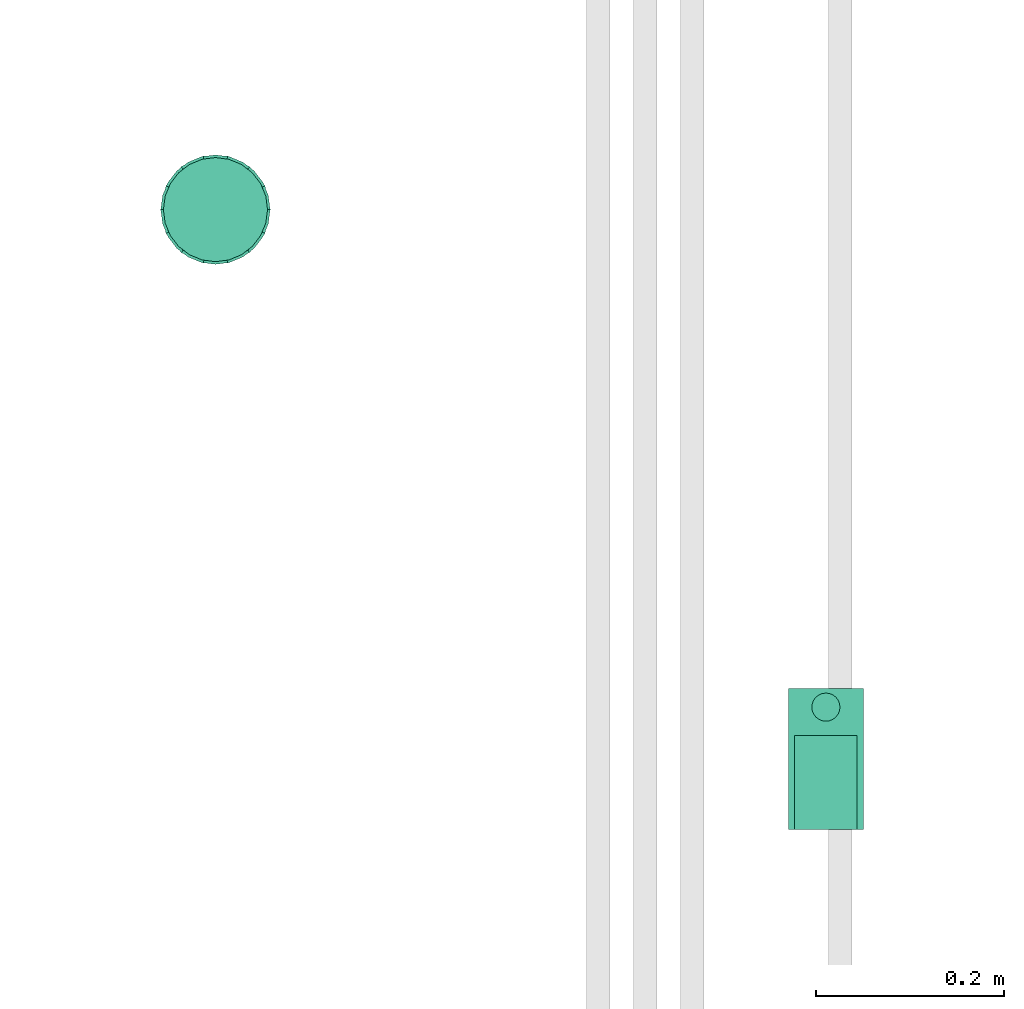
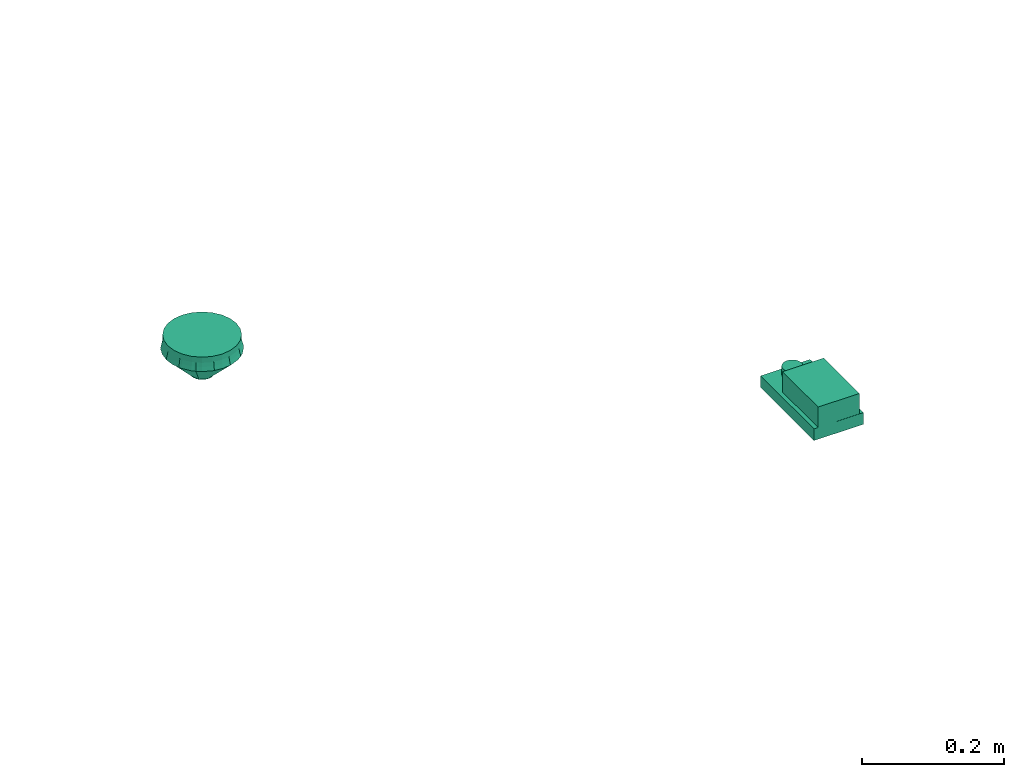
# One storey, part 13 of 51: 2 distribution control elements.
"""IFC2X3 building model written with IfcOpenShell, lengths in millimetres."""

from ifc_helpers import new_model, entity, si_unit, converted_unit, derived_unit, direction, frame, origin_with_axes, place, context, subcontext, project, spatial, open_shell, surface_model, source, transform, mapped, type_object, element, save


model = new_model("IFC2X3")

# Units and contexts
model_context = context("Model", 3, precision=0.01, world=frame((0.0, 4.29681676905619e-09, 0.0)), true_north=direction((4.01073788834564e-13, 1.0)))
plan_context = context("Plan", 3, precision=0.01, world=frame((0.0, 4.29681676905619e-09, 0.0)), true_north=direction((4.01073788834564e-13, 1.0)))
body_context = subcontext(model_context, "Body", "Model", "MODEL_VIEW")
ifc_project = project(units=[converted_unit("PLANEANGLEUNIT", "DEGREE", entity("IfcPositiveLengthMeasure", 0.0174532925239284), si_unit("PLANEANGLEUNIT", "RADIAN"), dimensions=[0, 0, 0, 0, 0, 0, 0]), si_unit("AREAUNIT", "SQUARE_METRE"), si_unit("LENGTHUNIT", "METRE", prefix="MILLI"), si_unit("MASSUNIT", "GRAM", prefix="KILO"), si_unit("POWERUNIT", "WATT"), si_unit("PRESSUREUNIT", "PASCAL"), si_unit("FORCEUNIT", "NEWTON", prefix="KILO"), si_unit("ELECTRICVOLTAGEUNIT", "VOLT"), si_unit("ELECTRICCURRENTUNIT", "AMPERE"), si_unit("THERMODYNAMICTEMPERATUREUNIT", "DEGREE_CELSIUS"), si_unit("TIMEUNIT", "SECOND"), si_unit("VOLUMEUNIT", "CUBIC_METRE"), derived_unit("LINEARVELOCITYUNIT", [(si_unit("LENGTHUNIT", "METRE"), 1), (si_unit("TIMEUNIT", "SECOND"), -1)]), derived_unit("VOLUMETRICFLOWRATEUNIT", [(si_unit("VOLUMEUNIT", "CUBIC_METRE"), 1), (si_unit("TIMEUNIT", "SECOND"), -1)]), derived_unit("THERMALTRANSMITTANCEUNIT", [(si_unit("POWERUNIT", "WATT"), 1), (si_unit("THERMODYNAMICTEMPERATUREUNIT", "KELVIN"), -1), (si_unit("AREAUNIT", "SQUARE_METRE"), -1)]), derived_unit("SOUNDPRESSUREUNIT", [(si_unit("PRESSUREUNIT", "PASCAL"), 1)])], contexts=[model_context, plan_context])

# Site, building, storey
site_placement = place(None, frame((0.0, -4.29681676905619e-09, 0.0), z_axis=(0.0, 0.0, 1.0), x_axis=(1.0, 0.0, 0.0)))
site = spatial("IfcSite", under=ifc_project, at=site_placement, Name="ENGM", CompositionType="ELEMENT")
building_placement = place(site_placement, frame((0.0, 4.29681676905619e-09, 0.0), z_axis=(0.0, 0.0, 1.0), x_axis=(1.0, 0.0, 0.0)))
building = spatial("IfcBuilding", under=site, at=building_placement, Name="TI", CompositionType="ELEMENT")
storey_placement = place(building_placement, frame((0.0, 0.0, 210900.0), z_axis=(0.0, 0.0, 1.0), x_axis=(1.0, 0.0, 0.0)))
storey = spatial("IfcBuildingStorey", under=building, at=storey_placement, Name="Nivå F", CompositionType="ELEMENT", Elevation=210900.0)

# Distribution control elements
alarm_type_1 = type_object("IfcAlarmType", Name="Standard", PredefinedType="NOTDEFINED")
shared_shape_1 = source(origin_with_axes(), body_context, "Body", "SurfaceModel", [
    surface_model("IfcShellBasedSurfaceModel", [(8.775, -15.19875, -64.9), (-12.40972, -12.40972, -64.9), (4.54227, -16.952, -64.9), (15.19875, -8.775, -64.9), (12.40972, -12.40972, -64.9), (16.952, -4.54227, -64.9), (-4.54227, 16.952, -64.9), (-16.952, -4.54227, -64.9), (0.0, -17.55, -64.9), (-8.775, -15.19875, -64.9), (-4.54227, -16.952, -64.9), (-15.19875, -8.775, -64.9), (17.55, 0.0, -64.9), (15.19875, 8.775, -64.9), (16.952, 4.54227, -64.9), (0.0, 17.55, -64.9), (12.40972, 12.40972, -64.9), (4.54227, 16.952, -64.9), (8.775, 15.19875, -64.9), (-17.55, 0.0, -64.9), (-15.19875, 8.775, -64.9), (-16.952, 4.54227, -64.9), (-12.40972, 12.40972, -64.9), (-8.775, 15.19875, -64.9), (16.952, 4.54227, -65.1), (0.0, 17.55, -65.1), (4.54227, 16.952, -65.1), (12.40972, 12.40972, -65.1), (8.775, 15.19875, -65.1), (15.19875, 8.775, -65.1), (-12.40972, 12.40972, -65.1), (-4.54227, 16.952, -65.1), (-8.775, 15.19875, -65.1), (-15.19875, 8.775, -65.1), (-17.55, 0.0, -65.1), (-16.952, 4.54227, -65.1), (-16.952, -4.54227, -65.1), (16.952, -4.54227, -65.1), (8.775, -15.19875, -65.1), (15.19875, -8.775, -65.1), (12.40972, -12.40972, -65.1), (-12.40972, -12.40972, -65.1), (4.54227, -16.952, -65.1), (-15.19875, -8.775, -65.1), (-8.775, -15.19875, -65.1), (0.0, -17.55, -65.1), (-4.54227, -16.952, -65.1), (17.55, 0.0, -65.1), (-36.47415, 45.73714, -22.75), (-52.70668, 25.3822, -22.75), (-58.5, 0.0, -22.75), (52.70668, 25.3822, -22.75), (13.01748, 57.03328, -22.75), (-13.01748, 57.03328, -22.75), (36.47415, 45.73714, -22.75), (-52.70668, -25.3822, -22.75), (-36.47415, -45.73714, -22.75), (-13.01748, -57.03328, -22.75), (36.47415, -45.73714, -22.75), (52.70668, -25.3822, -22.75), (58.5, 0.0, -22.75), (13.01748, -57.03328, -22.75), (0.0, 17.55, -65.0), (12.40972, 12.40972, -65.0), (-12.40972, 12.40972, -65.0), (-12.40972, -12.40972, -65.0), (-17.55, 0.0, -65.0), (17.55, 0.0, -65.0), (12.40972, -12.40972, -65.0), (0.0, -17.55, -65.0), (-44.59042, -35.55967, -22.75), (-13.69479, -9.30729, -65.0), (55.60334, -12.6911, -22.75), (14.97986, -6.20486, -65.0), (16.26493, -3.10243, -65.0), (-9.30729, -13.69479, -65.0), (-6.20486, -14.97986, -65.0), (-24.74581, -51.38521, -22.75), (-14.97986, -6.20486, -65.0), (24.74581, -51.38521, -22.75), (9.30729, -13.69479, -65.0), (-55.60334, -12.6911, -22.75), (-16.26493, -3.10243, -65.0), (-3.10243, -16.26493, -65.0), (3.10243, -16.26493, -65.0), (0.0, -57.03328, -22.75), (44.59042, -35.55967, -22.75), (13.69479, -9.30729, -65.0), (6.20486, -14.97986, -65.0), (44.59042, 35.55967, -22.75), (13.69479, 9.30729, -65.0), (-55.60334, 12.6911, -22.75), (-14.97986, 6.20486, -65.0), (-16.26493, 3.10243, -65.0), (9.30729, 13.69479, -65.0), (6.20486, 14.97986, -65.0), (24.74581, 51.38521, -22.75), (14.97986, 6.20486, -65.0), (-24.74581, 51.38521, -22.75), (-9.30729, 13.69479, -65.0), (55.60334, 12.6911, -22.75), (16.26493, 3.10243, -65.0), (3.10243, 16.26493, -65.0), (-3.10243, 16.26493, -65.0), (0.0, 57.03328, -22.75), (-44.59042, 35.55967, -22.75), (-13.69479, 9.30729, -65.0), (-6.20486, 14.97986, -65.0), (-28.275, 48.97374, -16.25), (-32.41056, 45.80041, -16.25), (-13.88456, 54.72206, -16.25), (-49.79102, 26.30191, -16.25), (-39.98689, 39.98689, -16.25), (-48.97374, 28.275, -16.25), (-37.1285, 42.18021, -16.25), (-35.38305, 44.36894, -16.25), (-56.2774, 2.07059, -16.25), (-56.75, 0.0, -16.25), (-56.55, 0.0, -16.25), (-51.91976, 21.16268, -16.25), (-51.12998, 24.6229, -16.25), (-54.62311, 14.63622, -16.25), (28.275, 48.97374, -16.25), (14.63622, 54.62311, -16.25), (13.88456, 54.72206, -16.25), (54.62311, -14.63622, -16.25), (56.2774, -2.07059, -16.25), (51.91976, -21.16268, -16.25), (12.62806, 55.32716, -16.25), (9.2884, 55.32716, -16.25), (49.79102, 26.30191, -16.25), (39.98689, 39.98689, -16.25), (37.1285, 42.18021, -16.25), (56.55, 0.0, -16.25), (56.75, 0.0, -16.25), (56.2774, 2.07059, -16.25), (39.98689, -39.98689, -16.25), (49.79102, -26.30191, -16.25), (37.1285, -42.18021, -16.25), (35.38305, 44.36894, -16.25), (32.41056, 45.80041, -16.25), (35.38305, -44.36894, -16.25), (32.41056, -45.80041, -16.25), (-56.2774, -2.07059, -16.25), (-49.79102, -26.30191, -16.25), (-51.91976, -21.16268, -16.25), (-51.12998, -24.6229, -16.25), (-37.1285, -42.18021, -16.25), (-35.38305, -44.36894, -16.25), (-32.41056, -45.80041, -16.25), (-13.88456, -54.72206, -16.25), (-28.275, -48.97374, -16.25), (-14.63622, -54.62311, -16.25), (51.12998, -24.6229, -16.25), (-39.98689, -39.98689, -16.25), (-48.97374, -28.275, -16.25), (-9.2884, 55.32716, -16.25), (-12.62806, 55.32716, -16.25), (28.275, -48.97374, -16.25), (13.88456, -54.72206, -16.25), (14.63622, -54.62311, -16.25), (48.97374, -28.275, -16.25), (12.62806, -55.32716, -16.25), (9.2884, -55.32716, -16.25), (0.0, -56.55, -16.25), (-9.2884, -55.32716, -16.25), (-12.62806, -55.32716, -16.25), (-54.62311, -14.63622, -16.25), (-14.63622, 54.62311, -16.25), (0.0, 56.55, -16.25), (48.97374, 28.275, -16.25), (51.91976, 21.16268, -16.25), (51.12998, 24.6229, -16.25), (54.62311, 14.63622, -16.25), (29.15, 50.48928, -22.75), (33.43697, 47.19977, -22.75), (14.29509, 56.41801, -22.75), (51.34019, 27.09572, -22.75), (41.22432, 41.22432, -22.75), (50.48928, 29.15, -22.75), (58.0274, 2.07059, -22.75), (58.3, 0.0, -22.75), (38.25759, 43.50078, -22.75), (-33.43697, 47.19977, -22.75), (-38.25759, 43.50078, -22.75), (56.31348, 15.08915, -22.75), (53.51269, 21.85086, -22.75), (-14.29509, -56.41801, -22.75), (-9.62167, -57.03328, -22.75), (-29.15, 50.48928, -22.75), (-15.08915, 56.31348, -22.75), (-14.29509, 56.41801, -22.75), (-56.31348, -15.08915, -22.75), (-58.0274, -2.07059, -22.75), (-53.51269, -21.85086, -22.75), (-9.62167, 57.03328, -22.75), (-51.34019, 27.09572, -22.75), (-41.22432, 41.22432, -22.75), (-41.22432, -41.22432, -22.75), (-51.34019, -27.09572, -22.75), (-38.25759, -43.50078, -22.75), (-58.3, 0.0, -22.75), (-58.0274, 2.07059, -22.75), (58.0274, -2.07059, -22.75), (-33.43697, -47.19977, -22.75), (51.34019, -27.09572, -22.75), (53.51269, -21.85086, -22.75), (41.22432, -41.22432, -22.75), (38.25759, -43.50078, -22.75), (29.15, -50.48928, -22.75), (15.08915, -56.31348, -22.75), (14.29509, -56.41801, -22.75), (9.62167, -57.03328, -22.75), (33.43697, -47.19977, -22.75), (50.48928, -29.15, -22.75), (9.62167, 57.03328, -22.75), (-29.15, -50.48928, -22.75), (-15.08915, -56.31348, -22.75), (-50.48928, -29.15, -22.75), (0.0, -58.3, -22.75), (56.31348, -15.08915, -22.75), (15.08915, 56.31348, -22.75), (0.0, 58.3, -22.75), (-50.48928, 29.15, -22.75), (-53.51269, 21.85086, -22.75), (-56.31348, 15.08915, -22.75), (53.15004, -15.77246, -16.25), (43.25652, -34.49592, -16.25), (-54.78902, -16.25884, -22.75), (-53.93999, -12.31145, -16.25), (24.00555, -49.84805, -16.25), (0.0, -55.32716, -16.25), (-24.00555, -49.84805, -16.25), (-43.25652, -34.49592, -16.25), (-53.15004, 15.77246, -16.25), (-43.25652, 34.49592, -16.25), (54.78902, 16.25884, -22.75), (53.93999, 12.31145, -16.25), (-24.00555, 49.84805, -16.25), (0.0, 55.32716, -16.25), (24.00555, 49.84805, -16.25), (43.25652, 34.49592, -16.25), (-27.65, 47.8912, -9.75), (-31.6774, 44.80087, -9.75), (-13.59132, 53.51067, -9.75), (-48.68446, 25.73491, -9.75), (-39.103, 39.103, -9.75), (-47.8912, 27.65, -9.75), (-34.60368, 43.39165, -9.75), (-36.322, 41.23694, -9.75), (-55.0274, 2.07059, -9.75), (-55.5, 0.0, -9.75), (-55.3, 0.0, -9.75), (-50.00377, 24.08055, -9.75), (-50.78195, 20.67112, -9.75), (-53.4157, 14.31269, -9.75), (27.65, 47.8912, -9.75), (14.31269, 53.4157, -9.75), (13.59132, 53.51067, -9.75), (53.4157, -14.31269, -9.75), (55.0274, -2.07059, -9.75), (50.78195, -20.67112, -9.75), (9.05035, 54.1085, -9.75), (12.34991, 54.1085, -9.75), (48.68446, 25.73491, -9.75), (39.103, 39.103, -9.75), (36.322, 41.23694, -9.75), (39.103, -39.103, -9.75), (48.68446, -25.73491, -9.75), (36.322, -41.23694, -9.75), (34.60368, 43.39165, -9.75), (31.6774, 44.80087, -9.75), (55.0274, 2.07059, -9.75), (55.3, 0.0, -9.75), (55.5, 0.0, -9.75), (34.60368, -43.39165, -9.75), (31.6774, -44.80087, -9.75), (-55.0274, -2.07059, -9.75), (-48.68446, -25.73491, -9.75), (-50.78195, -20.67112, -9.75), (-50.00377, -24.08055, -9.75), (-12.34991, -54.1085, -9.75), (-9.05035, -54.1085, -9.75), (-13.59132, -53.51067, -9.75), (-27.65, -47.8912, -9.75), (-14.31269, -53.4157, -9.75), (50.00377, -24.08055, -9.75), (-31.6774, -44.80087, -9.75), (-39.103, -39.103, -9.75), (-36.322, -41.23694, -9.75), (-47.8912, -27.65, -9.75), (-9.05035, 54.1085, -9.75), (-12.34991, 54.1085, -9.75), (27.65, -47.8912, -9.75), (13.59132, -53.51067, -9.75), (14.31269, -53.4157, -9.75), (47.8912, -27.65, -9.75), (0.0, -55.3, -9.75), (9.05035, -54.1085, -9.75), (12.34991, -54.1085, -9.75), (-34.60368, -43.39165, -9.75), (-53.4157, -14.31269, -9.75), (-14.31269, 53.4157, -9.75), (0.0, 55.3, -9.75), (47.8912, 27.65, -9.75), (50.78195, 20.67112, -9.75), (50.00377, 24.08055, -9.75), (53.4157, 14.31269, -9.75), (51.93259, -15.62982, -9.75), (42.30373, -33.7361, -9.75), (-53.10225, -15.98184, -16.25), (-52.75189, -12.04027, -9.75), (23.4768, -48.75007, -9.75), (53.93999, -12.31145, -16.25), (0.0, -54.1085, -9.75), (-23.4768, -48.75007, -9.75), (-42.30373, -33.7361, -9.75), (-51.93259, 15.62982, -9.75), (-42.30373, 33.7361, -9.75), (53.10225, 15.98184, -16.25), (52.75189, 12.04027, -9.75), (-23.4768, 48.75007, -9.75), (-53.93999, 12.31145, -16.25), (0.0, 54.1085, -9.75), (23.4768, 48.75007, -9.75), (42.30373, 33.7361, -9.75), (14.36446, -53.60888, 0.0), (27.75, -48.06441, 0.0), (39.24443, -39.24443, 0.0), (0.0, -55.5, 0.0), (48.06441, -27.75, 0.0), (53.60888, -14.36446, 0.0), (55.5, 0.0, 0.0), (-27.75, -48.06441, 0.0), (-14.36446, -53.60888, 0.0), (-48.06441, -27.75, 0.0), (-39.24443, -39.24443, 0.0), (-53.60888, -14.36446, 0.0), (48.06441, 27.75, 0.0), (14.36446, 53.60888, 0.0), (39.24443, 39.24443, 0.0), (0.0, 55.5, 0.0), (27.75, 48.06441, 0.0), (-27.75, 48.06441, 0.0), (-55.5, 0.0, 0.0), (-48.06441, 27.75, 0.0), (-53.60888, 14.36446, 0.0), (-39.24443, 39.24443, 0.0), (-14.36446, 53.60888, 0.0), (53.60888, 14.36446, 0.0), (14.36446, 53.60888, -9.75), (-27.75, 48.06441, -9.75), (0.0, 55.5, -9.75), (39.24443, 39.24443, -9.75), (27.75, 48.06441, -9.75), (48.06441, 27.75, -9.75), (53.60888, 14.36446, -9.75), (-48.06441, 27.75, -9.75), (-39.24443, 39.24443, -9.75), (-14.36446, 53.60888, -9.75), (-53.60888, 14.36446, -9.75), (53.60888, -14.36446, -9.75), (48.06441, -27.75, -9.75), (-53.60888, -14.36446, -9.75), (39.24443, -39.24443, -9.75), (27.75, -48.06441, -9.75), (14.36446, -53.60888, -9.75), (-27.75, -48.06441, -9.75), (-48.06441, -27.75, -9.75), (-39.24443, -39.24443, -9.75), (0.0, -55.5, -9.75), (-14.36446, -53.60888, -9.75)], [open_shell([[[0, 1, 2]], [[3, 0, 4]], [[0, 5, 1]], [[5, 0, 3]], [[5, 6, 7]], [[8, 9, 10]], [[9, 8, 1]], [[1, 7, 11]], [[1, 8, 2]], [[5, 7, 1]], [[5, 12, 6]], [[13, 6, 14]], [[15, 13, 16]], [[17, 15, 16]], [[17, 16, 18]], [[6, 13, 15]], [[19, 20, 21]], [[19, 7, 20]], [[22, 6, 23]], [[7, 22, 20]], [[6, 22, 7]], [[12, 14, 6]], [[24, 25, 26]], [[27, 26, 28]], [[29, 24, 26]], [[29, 26, 27]], [[25, 24, 30]], [[31, 30, 32]], [[31, 25, 30]], [[33, 34, 35]], [[36, 34, 33]], [[33, 30, 36]], [[30, 24, 37]], [[36, 30, 37]], [[38, 37, 39]], [[36, 37, 38]], [[38, 39, 40]], [[41, 38, 42]], [[36, 41, 43]], [[36, 38, 41]], [[44, 45, 46]], [[45, 44, 41]], [[42, 45, 41]], [[37, 24, 47]], [[36, 7, 34]], [[43, 11, 36]], [[9, 41, 44]], [[43, 41, 1]], [[10, 44, 46]], [[36, 11, 7]], [[7, 19, 34]], [[10, 9, 44]], [[1, 41, 9]], [[1, 11, 43]], [[8, 10, 46]], [[46, 45, 8]], [[42, 2, 45]], [[38, 0, 42]], [[3, 40, 39]], [[38, 40, 4]], [[5, 39, 37]], [[38, 4, 0]], [[0, 2, 42]], [[12, 5, 37]], [[3, 39, 5]], [[3, 4, 40]], [[47, 12, 37]], [[45, 2, 8]], [[24, 14, 47]], [[29, 13, 24]], [[18, 27, 28]], [[29, 27, 16]], [[17, 28, 26]], [[24, 13, 14]], [[14, 12, 47]], [[17, 18, 28]], [[16, 27, 18]], [[16, 13, 29]], [[15, 17, 26]], [[26, 25, 15]], [[31, 6, 25]], [[32, 23, 31]], [[20, 30, 33]], [[32, 30, 22]], [[21, 33, 35]], [[32, 22, 23]], [[23, 6, 31]], [[19, 21, 35]], [[20, 33, 21]], [[20, 22, 30]], [[34, 19, 35]], [[25, 6, 15]], [[48, 49, 50]], [[48, 50, 51]], [[52, 53, 51]], [[51, 54, 52]], [[53, 48, 51]], [[50, 55, 51]], [[55, 56, 57]], [[57, 58, 51]], [[59, 60, 58]], [[60, 51, 58]], [[57, 61, 58]], [[51, 55, 57]], [[62, 63, 64]], [[65, 66, 64]], [[64, 63, 65]], [[67, 68, 69]], [[69, 65, 67]], [[67, 65, 63]], [[65, 70, 71]], [[72, 73, 74]], [[75, 76, 77]], [[55, 78, 71]], [[79, 80, 58]], [[78, 55, 81]], [[81, 82, 78]], [[57, 76, 83]], [[84, 85, 69]], [[59, 73, 72]], [[55, 71, 70]], [[69, 85, 83]], [[60, 74, 67]], [[68, 86, 58]], [[86, 68, 87]], [[56, 65, 75]], [[87, 59, 86]], [[60, 72, 74]], [[65, 56, 70]], [[66, 82, 50]], [[50, 82, 81]], [[56, 75, 77]], [[80, 79, 88]], [[61, 84, 88]], [[80, 68, 58]], [[87, 73, 59]], [[76, 57, 77]], [[85, 84, 61]], [[57, 83, 85]], [[79, 61, 88]], [[63, 89, 90]], [[91, 92, 93]], [[94, 95, 96]], [[51, 97, 90]], [[98, 99, 48]], [[97, 51, 100]], [[100, 101, 97]], [[52, 95, 102]], [[103, 104, 62]], [[49, 92, 91]], [[51, 90, 89]], [[62, 104, 102]], [[50, 93, 66]], [[64, 105, 48]], [[105, 64, 106]], [[54, 63, 94]], [[106, 49, 105]], [[50, 91, 93]], [[63, 54, 89]], [[67, 101, 60]], [[60, 101, 100]], [[54, 94, 96]], [[99, 98, 107]], [[53, 103, 107]], [[99, 64, 48]], [[106, 92, 49]], [[95, 52, 96]], [[104, 103, 53]], [[52, 102, 104]], [[98, 53, 107]], [[108, 109, 110]], [[111, 112, 113]], [[114, 109, 115]], [[116, 117, 118]], [[119, 111, 120]], [[121, 116, 119]], [[122, 123, 124]], [[125, 126, 127]], [[128, 129, 124]], [[130, 131, 132]], [[133, 134, 135]], [[136, 137, 138]], [[132, 139, 140]], [[141, 138, 142]], [[112, 111, 114]], [[117, 143, 118]], [[144, 145, 146]], [[147, 148, 149]], [[150, 151, 152]], [[127, 137, 153]], [[151, 150, 149]], [[154, 147, 144]], [[154, 144, 155]], [[110, 156, 157]], [[158, 159, 160]], [[133, 126, 134]], [[161, 137, 136]], [[162, 159, 163]], [[164, 163, 165]], [[158, 142, 159]], [[150, 166, 165]], [[167, 145, 143]], [[108, 110, 168]], [[169, 156, 129]], [[122, 124, 140]], [[131, 130, 170]], [[130, 171, 172]], [[173, 171, 135]], [[174, 175, 176]], [[177, 178, 179]], [[180, 60, 181]], [[54, 182, 175]], [[48, 183, 184]], [[185, 180, 186]], [[57, 187, 188]], [[189, 190, 191]], [[192, 193, 194]], [[195, 191, 53]], [[196, 197, 184]], [[198, 199, 200]], [[51, 186, 177]], [[201, 50, 202]], [[203, 181, 60]], [[178, 177, 182]], [[204, 56, 200]], [[205, 206, 59]], [[205, 207, 208]], [[209, 210, 211]], [[212, 211, 61]], [[209, 211, 213]], [[194, 199, 55]], [[207, 205, 214]], [[215, 52, 176]], [[216, 187, 217]], [[201, 193, 50]], [[198, 218, 199]], [[208, 58, 213]], [[219, 188, 212]], [[204, 187, 216]], [[220, 206, 203]], [[174, 176, 221]], [[222, 215, 195]], [[189, 191, 183]], [[197, 196, 223]], [[196, 224, 49]], [[225, 224, 202]], [[153, 59, 226]], [[141, 86, 227]], [[228, 146, 229]], [[162, 79, 230]], [[134, 226, 72]], [[72, 60, 134]], [[226, 59, 72]], [[230, 58, 141]], [[59, 153, 227]], [[141, 58, 86]], [[85, 231, 166]], [[166, 57, 85]], [[148, 77, 232]], [[56, 233, 70]], [[146, 70, 233]], [[57, 232, 77]], [[146, 55, 70]], [[50, 229, 117]], [[162, 61, 79]], [[232, 57, 166]], [[58, 230, 79]], [[146, 228, 55]], [[56, 148, 233]], [[59, 227, 86]], [[148, 56, 77]], [[162, 231, 61]], [[50, 228, 229]], [[61, 231, 85]], [[120, 49, 234]], [[115, 105, 235]], [[236, 172, 237]], [[157, 98, 238]], [[117, 234, 91]], [[91, 50, 117]], [[234, 49, 91]], [[238, 48, 115]], [[49, 120, 235]], [[115, 48, 105]], [[104, 239, 128]], [[128, 52, 104]], [[139, 96, 240]], [[54, 241, 89]], [[172, 89, 241]], [[52, 240, 96]], [[172, 51, 89]], [[60, 237, 134]], [[157, 53, 98]], [[240, 52, 128]], [[48, 238, 98]], [[172, 236, 51]], [[54, 139, 241]], [[49, 235, 105]], [[139, 54, 96]], [[157, 239, 53]], [[60, 236, 237]], [[53, 239, 104]], [[125, 133, 181]], [[125, 220, 161]], [[158, 136, 207]], [[214, 136, 161]], [[160, 158, 209]], [[220, 125, 181]], [[214, 161, 220]], [[207, 209, 158]], [[136, 214, 207]], [[210, 160, 209]], [[210, 219, 164]], [[160, 210, 164]], [[151, 152, 217]], [[151, 216, 154]], [[167, 155, 218]], [[198, 155, 154]], [[118, 167, 192]], [[152, 219, 217]], [[151, 217, 216]], [[155, 198, 218]], [[118, 192, 201]], [[192, 167, 218]], [[198, 154, 216]], [[164, 219, 152]], [[121, 118, 201]], [[121, 225, 113]], [[108, 112, 197]], [[223, 112, 113]], [[168, 108, 189]], [[225, 121, 201]], [[223, 113, 225]], [[197, 189, 108]], [[112, 223, 197]], [[190, 168, 189]], [[190, 222, 169]], [[168, 190, 169]], [[122, 123, 221]], [[122, 174, 131]], [[173, 170, 179]], [[178, 170, 131]], [[133, 173, 185]], [[123, 222, 221]], [[122, 221, 174]], [[170, 178, 179]], [[133, 185, 181]], [[185, 173, 179]], [[178, 131, 174]], [[169, 222, 123]], [[242, 243, 244]], [[245, 246, 247]], [[243, 248, 249]], [[250, 251, 252]], [[253, 254, 245]], [[255, 250, 254]], [[256, 257, 258]], [[259, 260, 261]], [[262, 258, 263]], [[264, 265, 266]], [[267, 268, 269]], [[266, 270, 271]], [[272, 273, 274]], [[275, 269, 276]], [[246, 245, 249]], [[277, 252, 251]], [[278, 279, 280]], [[281, 282, 283]], [[283, 284, 285]], [[261, 268, 286]], [[284, 283, 287]], [[288, 289, 278]], [[288, 278, 290]], [[244, 291, 292]], [[293, 294, 295]], [[273, 260, 274]], [[268, 267, 296]], [[294, 293, 276]], [[297, 298, 282]], [[298, 299, 294]], [[300, 287, 289]], [[301, 279, 277]], [[242, 244, 302]], [[303, 291, 262]], [[256, 258, 271]], [[265, 264, 304]], [[264, 305, 306]], [[307, 305, 272]], [[122, 140, 124]], [[170, 130, 131]], [[135, 134, 133]], [[140, 139, 132]], [[172, 171, 130]], [[173, 135, 171]], [[110, 157, 156]], [[108, 168, 110]], [[167, 143, 145]], [[114, 111, 112]], [[154, 144, 147]], [[115, 109, 114]], [[116, 118, 117]], [[150, 165, 166]], [[131, 130, 132]], [[126, 133, 134]], [[137, 127, 153]], [[145, 144, 146]], [[159, 158, 160]], [[163, 159, 162]], [[158, 159, 142]], [[136, 138, 137]], [[136, 137, 161]], [[124, 129, 128]], [[151, 150, 152]], [[118, 143, 117]], [[155, 144, 154]], [[147, 149, 148]], [[164, 165, 163]], [[151, 149, 150]], [[138, 141, 142]], [[125, 127, 126]], [[122, 124, 123]], [[169, 129, 156]], [[108, 110, 109]], [[112, 111, 113]], [[111, 119, 120]], [[121, 119, 116]], [[286, 153, 308]], [[275, 227, 309]], [[310, 280, 311]], [[299, 230, 312]], [[274, 308, 313]], [[313, 134, 274]], [[308, 153, 313]], [[312, 141, 275]], [[153, 286, 309]], [[275, 141, 227]], [[231, 314, 281]], [[281, 166, 231]], [[300, 232, 315]], [[148, 316, 233]], [[280, 233, 316]], [[166, 315, 232]], [[280, 146, 233]], [[117, 311, 251]], [[299, 162, 230]], [[315, 166, 281]], [[141, 312, 230]], [[280, 310, 146]], [[148, 300, 316]], [[153, 309, 227]], [[300, 148, 232]], [[299, 314, 162]], [[117, 310, 311]], [[162, 314, 231]], [[253, 120, 317]], [[248, 235, 318]], [[319, 306, 320]], [[292, 238, 321]], [[251, 317, 322]], [[322, 117, 251]], [[317, 120, 322]], [[321, 115, 248]], [[120, 253, 318]], [[248, 115, 235]], [[239, 323, 263]], [[263, 128, 239]], [[270, 240, 324]], [[139, 325, 241]], [[306, 241, 325]], [[128, 324, 240]], [[306, 172, 241]], [[134, 320, 274]], [[292, 157, 238]], [[324, 128, 263]], [[115, 321, 238]], [[306, 319, 172]], [[139, 270, 325]], [[120, 318, 235]], [[270, 139, 240]], [[292, 323, 157]], [[134, 319, 320]], [[157, 323, 239]], [[259, 273, 133]], [[259, 125, 296]], [[293, 267, 136]], [[161, 267, 296]], [[295, 293, 158]], [[125, 259, 133]], [[161, 296, 125]], [[136, 158, 293]], [[267, 161, 136]], [[160, 295, 158]], [[160, 164, 297]], [[295, 160, 297]], [[284, 285, 152]], [[284, 151, 288]], [[301, 290, 155]], [[154, 290, 288]], [[252, 301, 167]], [[285, 164, 152]], [[284, 152, 151]], [[290, 154, 155]], [[252, 167, 118]], [[167, 301, 155]], [[154, 288, 151]], [[297, 164, 285]], [[255, 252, 118]], [[255, 121, 247]], [[242, 246, 112]], [[113, 246, 247]], [[302, 242, 108]], [[121, 255, 118]], [[113, 247, 121]], [[112, 108, 242]], [[246, 113, 112]], [[168, 302, 108]], [[168, 169, 303]], [[302, 168, 303]], [[256, 257, 123]], [[256, 122, 265]], [[307, 304, 170]], [[131, 304, 265]], [[273, 307, 173]], [[257, 169, 123]], [[256, 123, 122]], [[304, 131, 170]], [[273, 173, 133]], [[173, 307, 170]], [[131, 265, 122]], [[303, 169, 257]], [[326, 327, 328]], [[329, 326, 328]], [[330, 331, 332]], [[329, 328, 330]], [[333, 330, 332]], [[329, 333, 334]], [[329, 330, 333]], [[333, 335, 336]], [[335, 333, 337]], [[332, 337, 333]], [[332, 338, 337]], [[337, 338, 339]], [[339, 338, 340]], [[339, 341, 337]], [[339, 340, 342]], [[343, 337, 341]], [[344, 345, 346]], [[337, 345, 344]], [[345, 343, 347]], [[343, 345, 337]], [[341, 348, 343]], [[338, 332, 349]], [[350, 351, 352]], [[353, 350, 354]], [[355, 356, 350]], [[355, 350, 353]], [[357, 350, 356]], [[351, 357, 358]], [[351, 359, 352]], [[357, 251, 360]], [[357, 351, 350]], [[251, 357, 356]], [[356, 274, 251]], [[274, 361, 362]], [[363, 274, 362]], [[364, 365, 366]], [[362, 364, 363]], [[366, 367, 364]], [[368, 367, 369]], [[368, 363, 364]], [[367, 370, 371]], [[368, 364, 367]], [[366, 370, 367]], [[274, 363, 251]], [[363, 337, 251]], [[368, 335, 363]], [[333, 369, 367]], [[368, 369, 336]], [[334, 367, 371]], [[363, 335, 337]], [[337, 344, 251]], [[334, 333, 367]], [[336, 369, 333]], [[336, 335, 368]], [[329, 334, 371]], [[371, 370, 329]], [[366, 326, 370]], [[365, 327, 366]], [[330, 364, 362]], [[365, 364, 328]], [[331, 362, 361]], [[365, 328, 327]], [[327, 326, 366]], [[332, 331, 361]], [[330, 362, 331]], [[330, 328, 364]], [[274, 332, 361]], [[370, 326, 329]], [[356, 349, 274]], [[355, 338, 356]], [[342, 353, 354]], [[355, 353, 340]], [[339, 354, 350]], [[356, 338, 349]], [[349, 332, 274]], [[339, 342, 354]], [[340, 353, 342]], [[340, 338, 355]], [[341, 339, 350]], [[350, 352, 341]], [[359, 348, 352]], [[351, 343, 359]], [[345, 358, 357]], [[351, 358, 347]], [[346, 357, 360]], [[351, 347, 343]], [[343, 348, 359]], [[344, 346, 360]], [[345, 357, 346]], [[345, 347, 358]], [[251, 344, 360]], [[352, 348, 341]]])]),
])
distribution_control_element_1_placement = place(storey_placement, frame((610716.64386, 693780.35355, 2400.0), z_axis=(0.0, 0.0, 1.0), x_axis=(1.0, 0.0, 0.0)))
element("IfcDistributionControlElement", 1, at=distribution_control_element_1_placement, inside=storey, type_object=alarm_type_1, Name="Standard", context=body_context, shape_type="MappedRepresentation", body=[
    mapped(shared_shape_1, transform((0.0, 0.0, 0.0), scale=1.0)),
])
alarm_type_2 = type_object("IfcAlarmType", Name="Brann Spjeld", PredefinedType="NOTDEFINED")
shared_shape_2 = source(origin_with_axes(), body_context, "Body", "SurfaceModel", [
    surface_model("IfcShellBasedSurfaceModel", [(-72.68295, -12.99038, 40.0), (-80.18294, -15.0, 40.0), (-76.30066, -14.48889, 40.0), (-65.69406, -3.88229, 40.0), (-69.57634, -10.6066, 40.0), (-94.67183, -3.88229, 40.0), (-95.18294, 0.0, 40.0), (-67.19256, -7.5, 40.0), (-87.68295, -12.99038, 40.0), (-84.06523, -14.48889, 40.0), (-93.17333, -7.5, 40.0), (-90.78954, -10.6066, 40.0), (-65.18294, 0.0, 40.0), (-65.69406, 3.88229, 40.0), (-67.19256, 7.5, 40.0), (-72.68295, 12.99038, 40.0), (-69.57634, 10.6066, 40.0), (-76.30066, 14.48889, 40.0), (-87.68295, 12.99038, 40.0), (-80.18294, 15.0, 40.0), (-93.17333, 7.5, 40.0), (-94.67183, 3.88229, 40.0), (-90.78954, 10.6066, 40.0), (-84.06523, 14.48889, 40.0), (-76.30066, 14.48889, 0.0), (-95.18294, 0.0, 0.0), (-80.18294, 15.0, 0.0), (-67.19256, 7.5, 0.0), (-72.68295, 12.99038, 0.0), (-69.57634, 10.6066, 0.0), (-94.67183, -3.88229, 0.0), (-87.68295, 12.99038, 0.0), (-93.17333, 7.5, 0.0), (-90.78954, 10.6066, 0.0), (-84.06523, 14.48889, 0.0), (-94.67183, 3.88229, 0.0), (-65.69406, 3.88229, 0.0), (-65.69406, -3.88229, 0.0), (-72.68295, -12.99038, 0.0), (-67.19256, -7.5, 0.0), (-69.57634, -10.6066, 0.0), (-76.30066, -14.48889, 0.0), (-93.17333, -7.5, 0.0), (-87.68295, -12.99038, 0.0), (-90.78954, -10.6066, 0.0), (-80.18294, -15.0, 0.0), (-84.06523, -14.48889, 0.0), (-65.18294, 0.0, 0.0), (50.0, -33.30706, 60.0), (50.0, 33.35938, 60.0), (-50.0, 33.35938, 60.0), (-50.0, -33.30706, 60.0), (-50.0, -33.30706, 25.0), (-50.0, 33.35938, 25.0), (50.0, 33.35938, 25.0), (50.0, -33.30706, 25.0), (50.14702, -40.00696, 25.0), (50.14702, 39.99304, 25.0), (-99.85298, 39.99304, 25.0), (-99.85298, -40.00696, 25.0), (-99.85298, -40.00696, 5.0), (-99.85298, 39.99304, 5.0), (50.14702, 39.99304, 5.0), (50.14702, -40.00696, 5.0)], [open_shell([[[0, 1, 2]], [[3, 0, 4]], [[5, 0, 6]], [[3, 4, 7]], [[0, 3, 6]], [[1, 8, 9]], [[8, 1, 5]], [[8, 10, 11]], [[10, 8, 5]], [[1, 0, 5]], [[3, 12, 13]], [[6, 3, 14]], [[15, 14, 16]], [[6, 14, 17]], [[17, 14, 15]], [[18, 17, 19]], [[6, 20, 21]], [[6, 17, 20]], [[20, 18, 22]], [[17, 18, 20]], [[19, 23, 18]], [[14, 3, 13]], [[24, 25, 26]], [[27, 24, 28]], [[25, 24, 27]], [[27, 28, 29]], [[30, 25, 27]], [[31, 32, 33]], [[31, 34, 26]], [[32, 25, 35]], [[32, 31, 26]], [[25, 32, 26]], [[27, 36, 30]], [[30, 36, 37]], [[38, 37, 39]], [[30, 37, 38]], [[38, 39, 40]], [[30, 38, 41]], [[42, 43, 44]], [[43, 42, 30]], [[43, 45, 46]], [[45, 43, 30]], [[30, 41, 45]], [[37, 36, 47]], [[5, 30, 42]], [[44, 10, 42]], [[8, 43, 46]], [[44, 43, 11]], [[9, 46, 45]], [[30, 6, 25]], [[30, 5, 6]], [[42, 10, 5]], [[44, 11, 10]], [[8, 11, 43]], [[46, 9, 8]], [[45, 1, 9]], [[2, 41, 38]], [[40, 0, 38]], [[7, 39, 37]], [[40, 39, 4]], [[3, 37, 47]], [[41, 2, 1]], [[38, 0, 2]], [[40, 4, 0]], [[39, 7, 4]], [[3, 7, 37]], [[47, 12, 3]], [[41, 1, 45]], [[36, 13, 47]], [[27, 14, 36]], [[17, 24, 26]], [[29, 16, 27]], [[36, 14, 13]], [[13, 12, 47]], [[28, 15, 16]], [[28, 24, 15]], [[24, 17, 15]], [[16, 14, 27]], [[16, 29, 28]], [[26, 19, 17]], [[23, 34, 31]], [[33, 18, 31]], [[20, 32, 35]], [[33, 32, 22]], [[21, 35, 25]], [[34, 23, 19]], [[31, 18, 23]], [[33, 22, 18]], [[32, 20, 22]], [[21, 20, 35]], [[25, 6, 21]], [[34, 19, 26]], [[48, 49, 50]], [[50, 51, 48]], [[52, 53, 54]], [[54, 55, 52]], [[50, 49, 54]], [[54, 53, 50]], [[51, 50, 53]], [[53, 52, 51]], [[48, 51, 52]], [[52, 55, 48]], [[49, 48, 55]], [[55, 54, 49]], [[56, 57, 58]], [[58, 59, 56]], [[60, 61, 62]], [[62, 63, 60]], [[58, 57, 62]], [[62, 61, 58]], [[59, 58, 61]], [[61, 60, 59]], [[56, 59, 60]], [[60, 63, 56]], [[57, 56, 63]], [[63, 62, 57]]])]),
])
distribution_control_element_2_placement = place(storey_placement, frame((611367.14066, 693170.01144, 2400.0), z_axis=(0.0, 0.0, 1.0), x_axis=(0.0, -1.0, 0.0)))
element("IfcDistributionControlElement", 2, at=distribution_control_element_2_placement, inside=storey, type_object=alarm_type_2, Name="Brann Spjeld", context=body_context, shape_type="MappedRepresentation", body=[
    mapped(shared_shape_2, transform((0.0, 0.0, 0.0), scale=1.0)),
])

save(model, "model.ifc")
